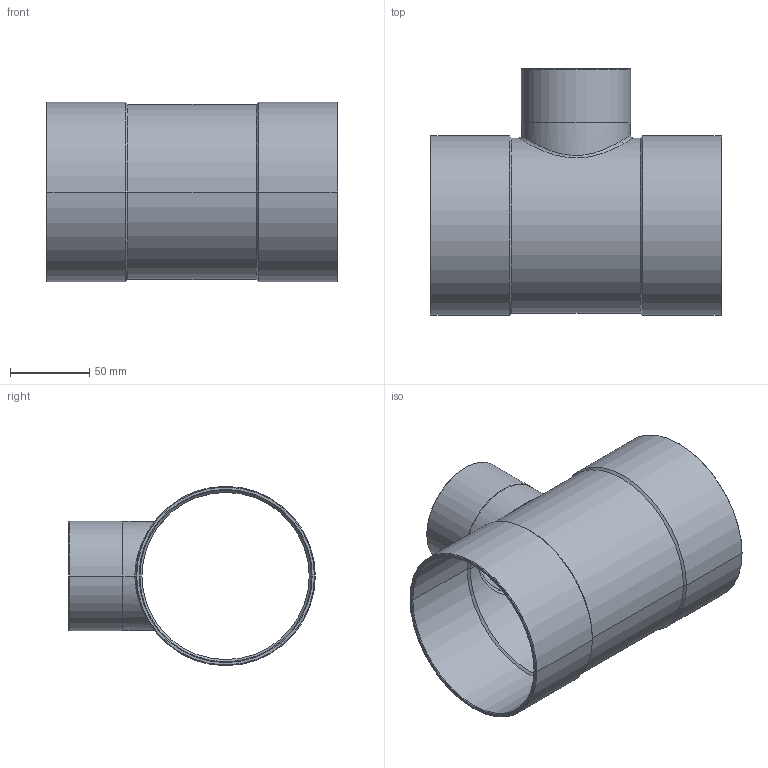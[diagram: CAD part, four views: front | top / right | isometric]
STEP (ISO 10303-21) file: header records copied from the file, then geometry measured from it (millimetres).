
FILE_DESCRIPTION((''),'2;1');
FILE_NAME('G:\Technics\CAD\Bauteile\15130\1513010864108.stp','2005-11-02T10:20:07',('boden'),(''),'Autodesk Inventor 8','Autodesk Inventor 8','');
FILE_SCHEMA(('AUTOMOTIVE_DESIGN { 1 0 10303 214 1 1 1 1 }'));
Length unit declared in the file: millimetre
Products named in the file (1): 1513010864108
Bounding box: 184 x 155.6 x 113.2 mm (x, y, z)
Volume: 176185.2 mm3; surface area: 142707.5 mm2
Topology: 1 solids, 1 shells, 49 faces, 108 edges, 60 vertices
Faces by surface type: cone 24, cylinder 20, plane 3, bspline 2
Entity records: 1739 total; most frequent: CARTESIAN_POINT 632, DIRECTION 242, ORIENTED_EDGE 216, EDGE_CURVE 108, AXIS2_PLACEMENT_3D 98, VERTEX_POINT 60, EDGE_LOOP 52, CIRCLE 50
